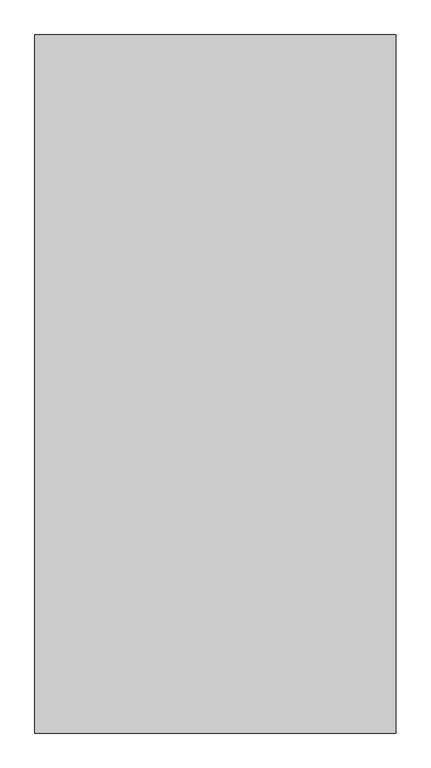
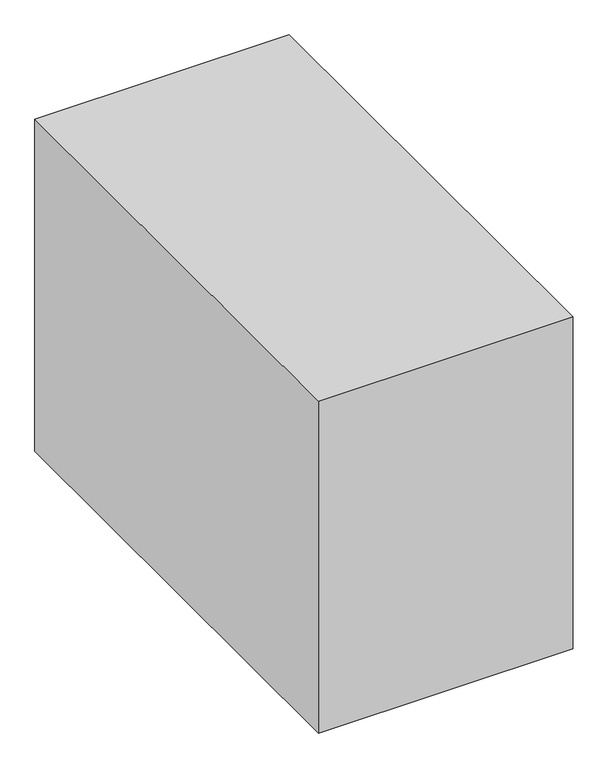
"""IFC4 building model written with IfcOpenShell, lengths in millimetres: furniture geometry, BIMHealth-Couch_Examination-LOD2A-v1 : BIMHealth-Couch_Examination-LOD2A-v1."""

from ifc_helpers import new_model, si_unit, point, frame, frame_2d, origin, origin_with_axes, place, context, project, spatial, polyline, circle_curve, trimmed, segment, composite_curve, outline, extrude, faceted_brep, source, transform, mapped, element, save


def furniture_500cdc3c(model_context):
    return source(origin(), model_context, "Body", "SolidModel", [
        extrude(outline(polyline([(60.0220189, -32.8869719), (60.0220189, -13.1946642), (67.536442, -13.1946642), (71.2167304, -13.7739911), (73.3898073, -15.5552411), (74.175865, -18.0744719), (73.5148073, -20.3749527), (71.5172112, -22.1177411), (73.942692, -23.9542796), (74.7912496, -27.0167796), (74.2119227, -29.6634142), (72.7768266, -31.5480296), (70.6349996, -32.5480296), (67.4787496, -32.8869719), (60.0220189, -32.8869719)]), holes=[polyline([(62.4835573, -21.1946642), (66.9787496, -21.1946642), (69.6037496, -20.9831257), (71.1830766, -20.0720681), (71.7143266, -18.4687027), (71.2191343, -16.8629334), (69.800865, -15.9134142), (66.6374035, -15.6562027), (62.4835573, -15.6562027), (62.4835573, -21.1946642)]), polyline([(62.4835573, -30.4254334), (67.5316343, -30.4254334), (69.3585573, -30.3292796), (70.9042304, -29.7932219), (72.3297112, -27.0408181), (71.8585573, -25.1273565), (70.332115, -23.9855296), (67.2912496, -23.6562027), (62.4835573, -23.6562027), (62.4835573, -30.4254334)])]), frame((0.0, 0.0, 765.0), z_axis=(0.0, 0.0, 1.0), x_axis=(1.0, 0.0, 0.0)), (0.0, 0.0, 1.0), 2.0),
        extrude(outline(polyline([(78.4835573, -32.8869719), (78.4835573, -13.1946642), (80.9450958, -13.1946642), (80.9450958, -32.8869719), (78.4835573, -32.8869719)])), frame((0.0, 0.0, 765.0), z_axis=(0.0, 0.0, 1.0), x_axis=(1.0, 0.0, 0.0)), (0.0, 0.0, 1.0), 2.0),
        extrude(outline(polyline([(85.8681727, -32.8869719), (85.8681727, -13.1946642), (90.0893266, -13.1946642), (94.1277881, -27.0744719), (94.9450958, -29.9735104), (95.8249035, -26.8340873), (99.786442, -13.1946642), (104.0220189, -13.1946642), (104.0220189, -32.8869719), (101.5604804, -32.8869719), (101.5604804, -15.6562027), (96.613365, -32.8869719), (93.2816343, -32.8869719), (88.3297112, -15.6562027), (88.3297112, -32.8869719), (85.8681727, -32.8869719)])), frame((0.0, 0.0, 765.0), z_axis=(0.0, 0.0, 1.0), x_axis=(1.0, 0.0, 0.0)), (0.0, 0.0, 1.0), 2.0),
        extrude(outline(polyline([(108.3297112, -32.8869719), (108.3297112, -13.1946642), (110.7912496, -13.1946642), (110.7912496, -21.1946642), (121.2527881, -21.1946642), (121.2527881, -13.1946642), (123.7143266, -13.1946642), (123.7143266, -32.8869719), (121.2527881, -32.8869719), (121.2527881, -23.6562027), (110.7912496, -23.6562027), (110.7912496, -32.8869719), (108.3297112, -32.8869719)])), frame((0.0, 0.0, 765.0), z_axis=(0.0, 0.0, 1.0), x_axis=(1.0, 0.0, 0.0)), (0.0, 0.0, 1.0), 2.0),
        extrude(outline(polyline([(137.8393266, -28.5792796), (140.2527881, -28.8869719), (137.9955766, -32.0648565), (133.7912496, -33.1946642), (128.6806727, -31.245145), (126.7912496, -25.776395), (128.6999035, -20.1273565), (133.6518266, -18.1177411), (138.4619227, -20.1225488), (140.3297112, -25.7619719), (129.2527881, -26.4254334), (130.6686535, -29.6225488), (133.8393266, -30.7331257), (136.2527881, -30.2187027), (137.8393266, -28.5792796)]), holes=[polyline([(129.2527881, -23.963895), (137.8681727, -23.963895), (136.8825958, -21.7331257), (133.6422112, -20.5792796), (130.6109612, -21.4999527), (129.2527881, -23.963895)])]), frame((0.0, 0.0, 765.0), z_axis=(0.0, 0.0, 1.0), x_axis=(1.0, 0.0, 0.0)), (0.0, 0.0, 1.0), 2.0),
        extrude(outline(polyline([(152.0220189, -31.0408181), (149.6349996, -32.7090873), (146.9979804, -33.1946642), (143.4234612, -32.026395), (142.175865, -29.0408181), (142.6470189, -27.0937027), (143.8849996, -25.6802411), (145.6085573, -24.8725488), (147.738365, -24.5023565), (152.0075958, -23.6562027), (151.3441343, -21.2908181), (148.6229804, -20.5792796), (146.1325958, -21.0528373), (144.9450958, -22.7331257), (142.4835573, -22.4254334), (143.5484612, -20.0215873), (145.692692, -18.6129334), (148.9402881, -18.1177411), (151.9234612, -18.5552411), (153.6085573, -19.6537988), (154.363365, -21.3244719), (154.4835573, -23.4783181), (154.4835573, -26.5408181), (154.6085573, -30.8172604), (155.098942, -32.8869719), (152.6374035, -32.8869719), (152.0220189, -31.0408181)]), holes=[polyline([(152.0148073, -26.4662988), (148.050865, -26.8725488), (145.9330766, -27.2715873), (147.5220189, -30.7331257), (150.0124035, -30.1441834), (151.6181727, -28.7187027), (152.0148073, -26.4662988)])]), frame((0.0, 0.0, 765.0), z_axis=(0.0, 0.0, 1.0), x_axis=(1.0, 0.0, 0.0)), (0.0, 0.0, 1.0), 2.0),
        extrude(outline(polyline([(157.8681727, -32.8869719), (157.8681727, -13.1946642), (160.3297112, -13.1946642), (160.3297112, -32.8869719), (157.8681727, -32.8869719)])), frame((0.0, 0.0, 765.0), z_axis=(0.0, 0.0, 1.0), x_axis=(1.0, 0.0, 0.0)), (0.0, 0.0, 1.0), 2.0),
        extrude(outline(polyline([(168.0220189, -29.8412988), (169.5604804, -32.9590873), (167.7191343, -33.1946642), (165.6566343, -32.7860104), (164.3297112, -28.9206257), (164.3297112, -20.8869719), (162.4835573, -20.8869719), (162.4835573, -18.4254334), (164.3297112, -18.4254334), (164.3297112, -14.9110104), (166.7912496, -13.463895), (166.7912496, -18.4254334), (169.2527881, -18.4254334), (169.2527881, -20.8869719), (166.7912496, -20.8869719), (168.0220189, -29.8412988)])), frame((0.0, 0.0, 765.0), z_axis=(0.0, 0.0, 1.0), x_axis=(1.0, 0.0, 0.0)), (0.0, 0.0, 1.0), 2.0),
        extrude(outline(polyline([(171.7143266, -32.8869719), (171.7143266, -13.1946642), (174.175865, -13.1946642), (174.175865, -20.4350488), (178.4595189, -18.1177411), (181.223942, -18.7499527), (182.9018266, -20.4975488), (183.4066343, -23.7331257), (183.4066343, -32.8869719), (180.9450958, -32.8869719), (180.9450958, -23.9879334), (180.161442, -21.3917796), (177.9402881, -20.5792796), (175.9234612, -21.1273565), (174.5773073, -22.6129334), (174.175865, -25.2042796), (174.175865, -32.8869719), (171.7143266, -32.8869719)])), frame((0.0, 0.0, 765.0), z_axis=(0.0, 0.0, 1.0), x_axis=(1.0, 0.0, 0.0)), (0.0, 0.0, 1.0), 2.0),
        faceted_brep([(0.0, 0.0, 0.0), (50.0, 0.0, 0.0), (50.0, -50.0, 0.0), (0.0, -50.0, 0.0), (0.0, 0.0, 700.0), (650.0, 0.0, 700.0), (650.0, 0.0, 0.0), (600.0, 0.0, 0.0), (600.0, 0.0, 125.0), (50.0, 0.0, 125.0), (600.0, 0.0, 650.0), (50.0, 0.0, 650.0), (50.0, 0.0, 175.0), (600.0, 0.0, 175.0), (50.0, -50.0, 125.0), (50.0, -50.0, 650.0), (50.0, -50.0, 175.0), (600.0, -50.0, 125.0), (600.0, -50.0, 0.0), (650.0, -50.0, 0.0), (650.0, -50.0, 650.0), (600.0, -50.0, 650.0), (600.0, -50.0, 175.0), (0.0, -50.0, 650.0), (310.0, -50.0, 165.0), (340.0, -50.0, 165.0), (340.0, -50.0, 135.0), (310.0, -50.0, 135.0), (0.0, -1850.0, 650.0), (0.0, -1850.0, 0.0), (0.0, -1900.0, 0.0), (0.0, -1900.0, 700.0), (650.0, -1900.0, 700.0), (50.0, -50.0, 700.0), (600.0, -50.0, 700.0), (600.0, -1850.0, 700.0), (50.0, -1850.0, 700.0), (50.0, -1850.0, 650.0), (600.0, -1850.0, 650.0), (600.0, -1900.0, 650.0), (50.0, -1900.0, 650.0), (650.0, -1850.0, 650.0), (650.0, -1900.0, 0.0), (650.0, -1850.0, 0.0), (50.0, -1900.0, 0.0), (50.0, -1900.0, 125.0), (600.0, -1900.0, 125.0), (600.0, -1900.0, 0.0), (600.0, -1900.0, 175.0), (50.0, -1900.0, 175.0), (310.0, -1850.0, 165.0), (340.0, -1850.0, 165.0), (340.0, -1850.0, 135.0), (310.0, -1850.0, 135.0), (600.0, -1850.0, 175.0), (50.0, -1850.0, 175.0), (50.0, -1850.0, 125.0), (600.0, -1850.0, 125.0), (600.0, -1850.0, 0.0), (50.0, -1850.0, 0.0)], [[[0, 1, 2, 3]], [[1, 0, 4, 5, 6, 7, 8, 9], [10, 11, 12, 13]], [[2, 1, 9, 14]], [[11, 15, 16, 12]], [[3, 2, 14, 17, 18, 19, 20, 21, 22, 16, 15, 23], [24, 25, 26, 27]], [[0, 3, 23, 28, 29, 30, 31, 4]], [[4, 31, 32, 5], [33, 34, 35, 36]], [[15, 37, 28, 23]], [[37, 38, 39, 40]], [[38, 21, 20, 41]], [[21, 15, 11, 10]], [[5, 32, 42, 43, 41, 20, 19, 6]], [[32, 31, 30, 44, 45, 46, 47, 42], [48, 49, 40, 39]], [[34, 33, 15, 21]], [[35, 34, 21, 38]], [[36, 35, 38, 37]], [[33, 36, 37, 15]], [[7, 6, 19, 18]], [[21, 10, 13, 22]], [[7, 18, 17, 8]], [[16, 22, 13, 12]], [[9, 8, 17, 14]], [[24, 50, 51, 25]], [[26, 52, 53, 27]], [[25, 51, 52, 26]], [[50, 24, 27, 53]], [[49, 48, 54, 55]], [[56, 57, 46, 45]], [[55, 54, 38, 41, 43, 58, 57, 56, 59, 29, 28, 37], [51, 50, 53, 52]], [[58, 43, 42, 47]], [[48, 39, 38, 54]], [[58, 47, 46, 57]], [[29, 59, 44, 30]], [[40, 49, 55, 37]], [[44, 59, 56, 45]]]),
        extrude(outline(composite_curve([segment(trimmed(circle_curve(frame_2d((600.0, -50.0)), 50.0), [point((600.0, 0.0))], [point((650.0, -50.0))], False, "CARTESIAN"), True, "CONTINUOUS"), segment(polyline([(650.0, -50.0), (650.0, -640.0)]), True, "CONTINUOUS"), segment(trimmed(circle_curve(frame_2d((600.0, -640.0)), 50.0), [point((650.0, -640.0))], [point((600.0, -690.0))], False, "CARTESIAN"), True, "CONTINUOUS"), segment(polyline([(600.0, -690.0), (50.0, -690.0)]), True, "CONTINUOUS"), segment(trimmed(circle_curve(frame_2d((50.0, -640.0)), 50.0), [point((50.0, -690.0))], [point((0.0, -640.0))], False, "CARTESIAN"), True, "CONTINUOUS"), segment(polyline([(0.0, -640.0), (0.0, -50.0)]), True, "CONTINUOUS"), segment(trimmed(circle_curve(frame_2d((50.0, -50.0)), 50.0), [point((0.0, -50.0))], [point((50.0, 0.0))], False, "CARTESIAN"), True, "CONTINUOUS"), segment(polyline([(50.0, 0.0), (600.0, 0.0)]), True, "CONTINUOUS")], self_intersect=False)), frame((0.0, 0.0, 700.0), z_axis=(0.0, 0.0, 1.0), x_axis=(1.0, 0.0, 0.0)), (0.0, 0.0, 1.0), 65.0),
        extrude(outline(composite_curve([segment(trimmed(circle_curve(frame_2d((600.0, -750.0)), 50.0), [point((600.0, -700.0))], [point((650.0, -750.0))], False, "CARTESIAN"), True, "CONTINUOUS"), segment(polyline([(650.0, -750.0), (650.0, -1850.0)]), True, "CONTINUOUS"), segment(trimmed(circle_curve(frame_2d((600.0, -1850.0)), 50.0), [point((650.0, -1850.0))], [point((600.0, -1900.0))], False, "CARTESIAN"), True, "CONTINUOUS"), segment(polyline([(600.0, -1900.0), (50.0, -1900.0)]), True, "CONTINUOUS"), segment(trimmed(circle_curve(frame_2d((50.0, -1850.0)), 50.0), [point((50.0, -1900.0))], [point((0.0, -1850.0))], False, "CARTESIAN"), True, "CONTINUOUS"), segment(polyline([(0.0, -1850.0), (0.0, -750.0)]), True, "CONTINUOUS"), segment(trimmed(circle_curve(frame_2d((50.0, -750.0)), 50.0), [point((0.0, -750.0))], [point((50.0, -700.0))], False, "CARTESIAN"), True, "CONTINUOUS"), segment(polyline([(50.0, -700.0), (600.0, -700.0)]), True, "CONTINUOUS")], self_intersect=False)), frame((0.0, 0.0, 700.0), z_axis=(0.0, 0.0, 1.0), x_axis=(1.0, 0.0, 0.0)), (0.0, 0.0, 1.0), 65.0),
        extrude(outline(polyline([(650.0, 100.0), (650.0, -2700.0), (-800.0, -2700.0), (-800.0, 100.0), (650.0, 100.0)])), origin_with_axes(), (0.0, 0.0, 1.0), 2000.0),
    ])


if __name__ == "__main__":
    model = new_model("IFC4")
    model_context = context("Model", 3, world=origin())
    ifc_project = project(units=[si_unit("LENGTHUNIT", "METRE", prefix="MILLI")], contexts=[model_context])
    site = spatial("IfcSite", under=ifc_project)
    building = spatial("IfcBuilding", under=site)
    placement = place(None, origin())
    furniture_shape = furniture_500cdc3c(model_context)
    element("IfcFurniture", 1, ObjectType="BIMHealth-Couch_Examination-LOD2A-v1 : BIMHealth-Couch_Examination-LOD2A-v1", at=placement, inside=building, context=model_context, shape_type="MappedRepresentation", body=[
        mapped(furniture_shape, transform((0.0, 0.0, 0.0), x_axis=(1.0, 0.0, 0.0), y_axis=(0.0, 1.0, 0.0), z_axis=(0.0, 0.0, 1.0))),
    ])
    save(model, "model.ifc")
